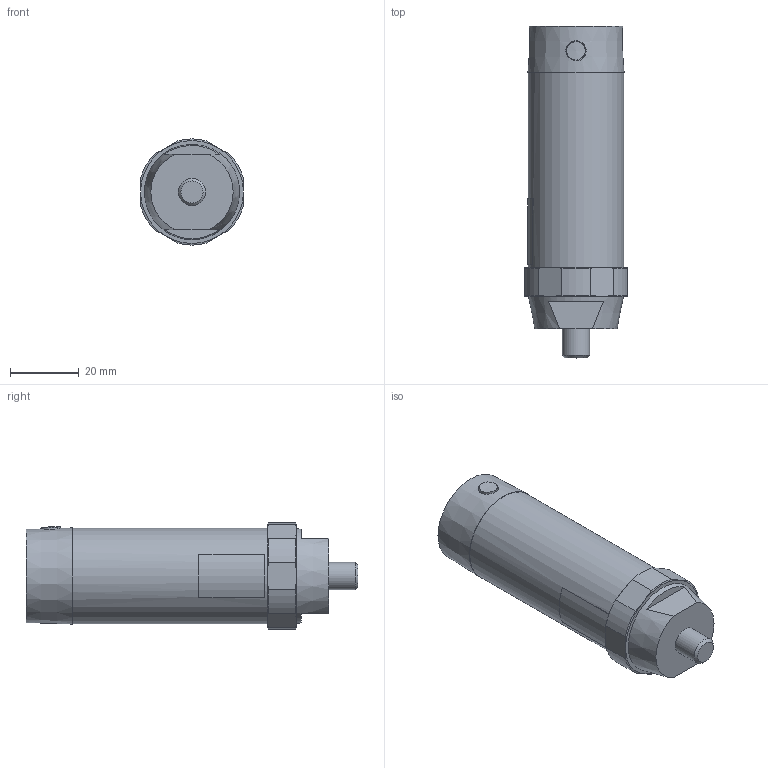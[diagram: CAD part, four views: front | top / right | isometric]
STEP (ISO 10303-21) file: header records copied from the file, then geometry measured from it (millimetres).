
FILE_DESCRIPTION( ( 'STEP AP203' ), '1' );
FILE_NAME( 'p:/temp/worker_709/temp/exporttempdir_1116_9_nOhnW/format_5/VWV001.stp', '2020-12-02T08:41:10', ( 'License CC BY-ND 4.0' ), ( 'CADENAS' ), ' ', 'PARTsolutions', ' ' );
FILE_SCHEMA( ( 'CONFIG_CONTROL_DESIGN' ) );
Length unit declared in the file: millimetre
Products named in the file (1): _VWV001
Bounding box: 30 x 96.85 x 31 mm (x, y, z)
Volume: 54011.2 mm3; surface area: 9774.6 mm2
Topology: 1 solids, 1 shells, 48 faces, 108 edges, 69 vertices
Faces by surface type: plane 21, cone 16, cylinder 11
Full cylindrical faces by diameter (mm): 5.364 x1, 5.88 x1, 8 x1, 27.8 x1
Entity records: 1470 total; most frequent: CARTESIAN_POINT 433, DIRECTION 206, ORIENTED_EDGE 192, EDGE_CURVE 96, AXIS2_PLACEMENT_3D 91, VERTEX_POINT 64, EDGE_LOOP 62, FACE_OUTER_BOUND 52
